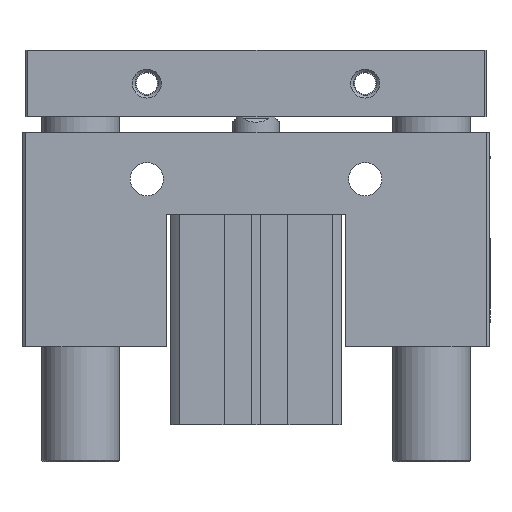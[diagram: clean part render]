
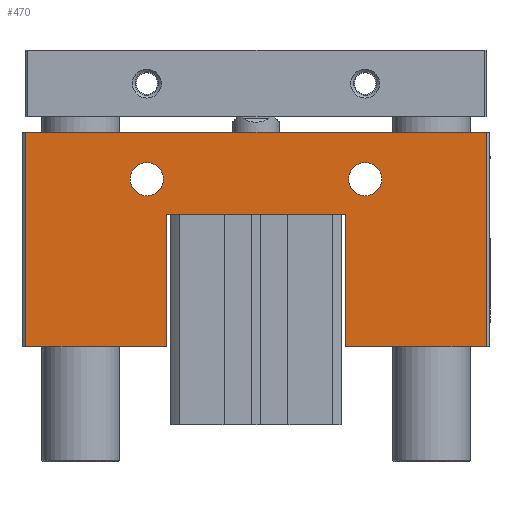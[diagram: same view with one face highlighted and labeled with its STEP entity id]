
A CAD part, front view. The second image highlights one B-rep face of the part: STEP entity #470.
In plain terms, the highlighted planar face has unit normal (0, -1, 0).
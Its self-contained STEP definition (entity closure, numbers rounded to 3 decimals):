
#199=CARTESIAN_POINT('',(-62.726,-23.62,75.));
#200=VERTEX_POINT('',#199);
#207=CARTESIAN_POINT('',(55.274,-23.62,75.));
#208=VERTEX_POINT('',#207);
#209=CARTESIAN_POINT('',(-62.726,-23.62,75.));
#210=DIRECTION('',(1.0,0.0,0.0));
#211=VECTOR('',#210,118.);
#212=LINE('',#209,#211);
#213=EDGE_CURVE('',#200,#208,#212,.T.);
#376=CARTESIAN_POINT('',(-62.726,-23.62,20.));
#377=VERTEX_POINT('',#376);
#384=CARTESIAN_POINT('',(-62.726,-23.62,20.));
#385=DIRECTION('',(0.0,0.0,1.0));
#386=VECTOR('',#385,55.);
#387=LINE('',#384,#386);
#388=EDGE_CURVE('',#377,#200,#387,.T.);
#393=CARTESIAN_POINT('',(-3.726,-23.62,49.533));
#394=DIRECTION('',(0.0,1.0,0.0));
#395=DIRECTION('',(0.0,0.0,1.0));
#396=AXIS2_PLACEMENT_3D('',#393,#394,#395);
#397=PLANE('',#396);
#398=ORIENTED_EDGE('',*,*,#388,.F.);
#399=CARTESIAN_POINT('',(-26.726,-23.62,20.));
#400=VERTEX_POINT('',#399);
#401=CARTESIAN_POINT('',(-26.726,-23.62,20.));
#402=DIRECTION('',(-1.0,0.0,0.0));
#403=VECTOR('',#402,36.0);
#404=LINE('',#401,#403);
#405=EDGE_CURVE('',#400,#377,#404,.T.);
#406=ORIENTED_EDGE('',*,*,#405,.F.);
#407=CARTESIAN_POINT('',(-26.726,-23.62,54.0));
#408=VERTEX_POINT('',#407);
#409=CARTESIAN_POINT('',(-26.726,-23.62,54.0));
#410=DIRECTION('',(0.0,0.0,-1.0));
#411=VECTOR('',#410,34.);
#412=LINE('',#409,#411);
#413=EDGE_CURVE('',#408,#400,#412,.T.);
#414=ORIENTED_EDGE('',*,*,#413,.F.);
#415=CARTESIAN_POINT('',(19.274,-23.62,54.0));
#416=VERTEX_POINT('',#415);
#417=CARTESIAN_POINT('',(19.274,-23.62,54.0));
#418=DIRECTION('',(-1.0,0.0,0.0));
#419=VECTOR('',#418,46.);
#420=LINE('',#417,#419);
#421=EDGE_CURVE('',#416,#408,#420,.T.);
#422=ORIENTED_EDGE('',*,*,#421,.F.);
#423=CARTESIAN_POINT('',(19.274,-23.62,20.));
#424=VERTEX_POINT('',#423);
#425=CARTESIAN_POINT('',(19.274,-23.62,20.));
#426=DIRECTION('',(0.0,0.0,1.0));
#427=VECTOR('',#426,34.);
#428=LINE('',#425,#427);
#429=EDGE_CURVE('',#424,#416,#428,.T.);
#430=ORIENTED_EDGE('',*,*,#429,.F.);
#431=CARTESIAN_POINT('',(55.274,-23.62,20.));
#432=VERTEX_POINT('',#431);
#433=CARTESIAN_POINT('',(55.274,-23.62,20.));
#434=DIRECTION('',(-1.0,0.0,0.0));
#435=VECTOR('',#434,36.);
#436=LINE('',#433,#435);
#437=EDGE_CURVE('',#432,#424,#436,.T.);
#438=ORIENTED_EDGE('',*,*,#437,.F.);
#439=CARTESIAN_POINT('',(55.274,-23.62,75.));
#440=DIRECTION('',(0.0,0.0,-1.0));
#441=VECTOR('',#440,55.);
#442=LINE('',#439,#441);
#443=EDGE_CURVE('',#208,#432,#442,.T.);
#444=ORIENTED_EDGE('',*,*,#443,.F.);
#445=ORIENTED_EDGE('',*,*,#213,.F.);
#446=EDGE_LOOP('',(#398,#406,#414,#422,#430,#438,#444,#445));
#447=FACE_OUTER_BOUND('',#446,.T.);
#448=CARTESIAN_POINT('',(-35.976,-23.62,63.));
#449=VERTEX_POINT('',#448);
#450=CARTESIAN_POINT('',(-31.726,-23.62,63.));
#451=DIRECTION('',(0.0,1.0,0.0));
#452=DIRECTION('',(1.0,0.0,0.0));
#453=AXIS2_PLACEMENT_3D('',#450,#451,#452);
#454=CIRCLE('',#453,4.25);
#455=EDGE_CURVE('',#449,#449,#454,.T.);
#456=ORIENTED_EDGE('',*,*,#455,.T.);
#457=EDGE_LOOP('',(#456));
#458=FACE_BOUND('',#457,.T.);
#459=CARTESIAN_POINT('',(20.024,-23.62,63.));
#460=VERTEX_POINT('',#459);
#461=CARTESIAN_POINT('',(24.274,-23.62,63.));
#462=DIRECTION('',(0.0,1.0,0.0));
#463=DIRECTION('',(1.0,0.0,0.0));
#464=AXIS2_PLACEMENT_3D('',#461,#462,#463);
#465=CIRCLE('',#464,4.25);
#466=EDGE_CURVE('',#460,#460,#465,.T.);
#467=ORIENTED_EDGE('',*,*,#466,.T.);
#468=EDGE_LOOP('',(#467));
#469=FACE_BOUND('',#468,.T.);
#470=ADVANCED_FACE('',(#447,#458,#469),#397,.F.);
